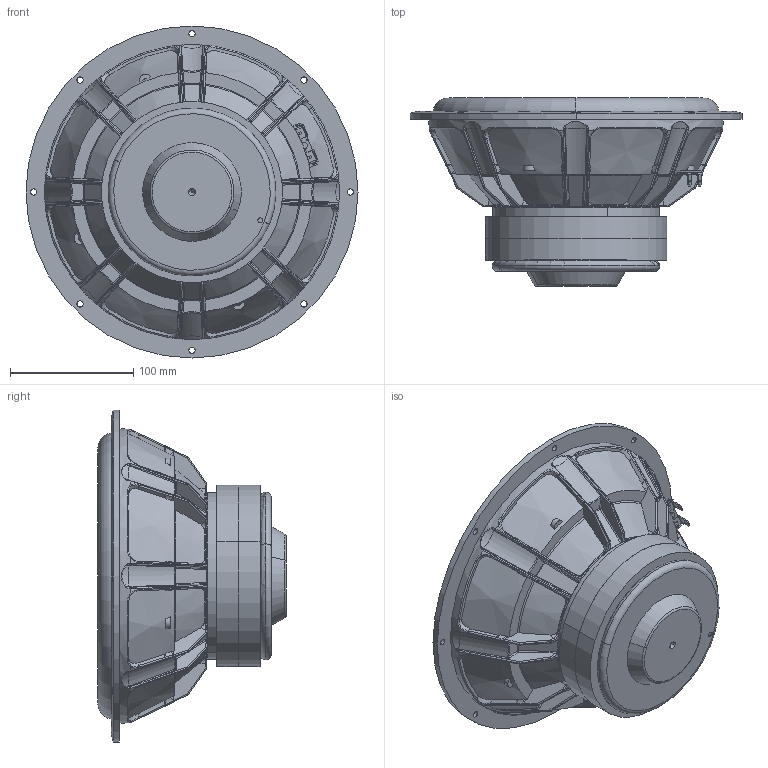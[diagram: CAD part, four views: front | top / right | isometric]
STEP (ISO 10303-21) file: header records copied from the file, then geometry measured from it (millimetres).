
FILE_DESCRIPTION (( 'STEP AP214' ), '1' );
FILE_NAME ('26W_4558T06.STEP', '2020-10-15T06:28:06', ( '' ), ( '' ), 'SwSTEP 2.0', 'SolidWorks 2019', '' );
FILE_SCHEMA (( 'AUTOMOTIVE_DESIGN' ));
Length unit declared in the file: millimetre
Products named in the file (1): 26W_4558T06
Bounding box: 269.2 x 152.56 x 269.2 mm (x, y, z)
Volume: 3307594.3 mm3; surface area: 229311.3 mm2
Topology: 1 solids, 7 shells, 1170 faces, 2959 edges, 1791 vertices
Faces by surface type: cylinder 387, bspline 288, plane 269, torus 92, cone 68, sphere 66
Entity records: 57721 total; most frequent: CARTESIAN_POINT 20496, ORIENTED_EDGE 5886, DIRECTION 4588, EDGE_CURVE 2943, AXIS2_PLACEMENT_3D 1883, VERTEX_POINT 1791, EDGE_LOOP 1212, ADVANCED_FACE 1170
